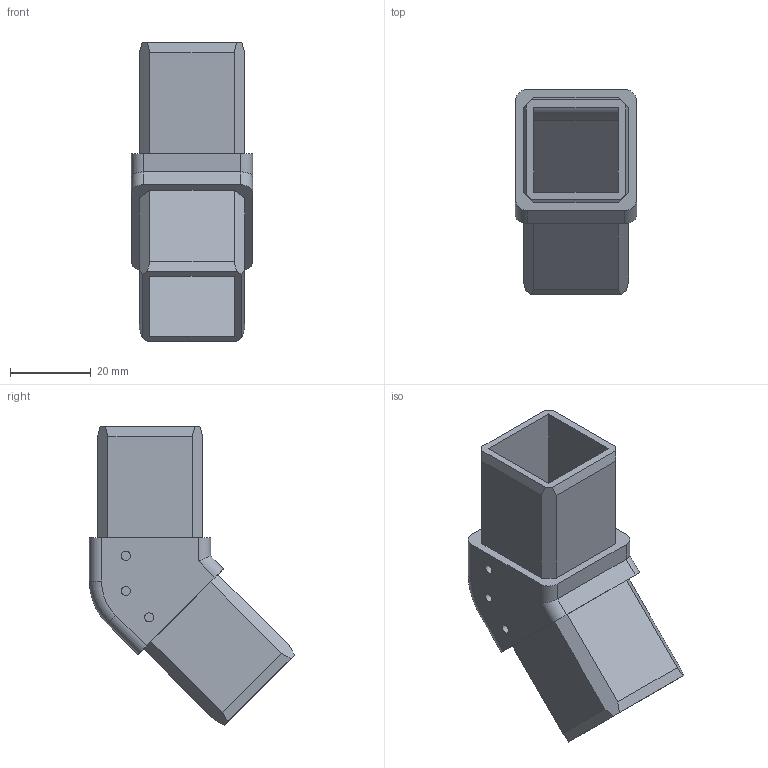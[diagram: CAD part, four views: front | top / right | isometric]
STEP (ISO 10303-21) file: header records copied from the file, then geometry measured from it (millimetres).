
FILE_DESCRIPTION (( 'STEP AP214' ), '1' );
FILE_NAME ('L15819.step', '2024-12-03T16:19:20', ( '' ), ( '' ), 'SwSTEP 2.0', 'SolidWorks 2023', '' );
FILE_SCHEMA (( 'AUTOMOTIVE_DESIGN' ));
Length unit declared in the file: millimetre
Products named in the file (1): L15819
Bounding box: 30 x 50.74 x 73.95 mm (x, y, z)
Volume: 21558.7 mm3; surface area: 15091.4 mm2
Topology: 1 solids, 1 shells, 55 faces, 150 edges, 99 vertices
Faces by surface type: plane 40, cylinder 13, torus 2
Full cylindrical faces by diameter (mm): 2.25 x3
Entity records: 1721 total; most frequent: CARTESIAN_POINT 302, ORIENTED_EDGE 288, DIRECTION 278, EDGE_CURVE 144, VECTOR 118, LINE 118, VERTEX_POINT 96, AXIS2_PLACEMENT_3D 80
